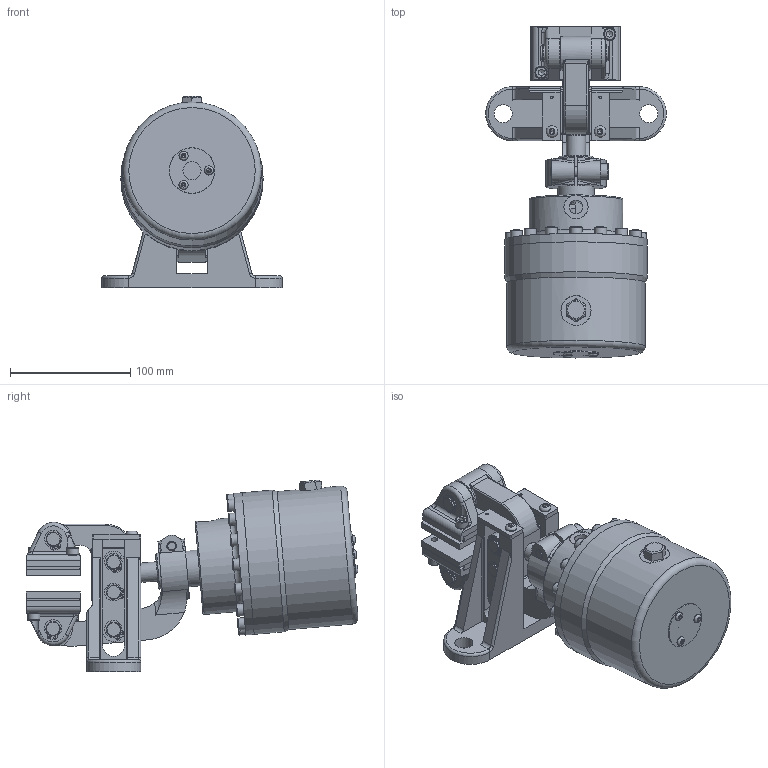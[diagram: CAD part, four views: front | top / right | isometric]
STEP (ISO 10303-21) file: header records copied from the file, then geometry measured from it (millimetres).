
FILE_DESCRIPTION(/* description */ ('','CAx-IF Rec.Pracs.---Representation and Presentation of Product Manufacturing Information (PMI)---4.0---2014-10-13'),/* implementation_level */ '2;1');
FILE_NAME(/* name */ 'X:\INVENTOR\DISEGNI\19_Pinze\STEP x Sito\OLEO-NEGATIVE\19_46_014_03 POD-N014_12,7.stp',/* time_stamp */ '2018-02-23T16:23:06+01:00',/* author */ ('stefano'),/* organization */ (''),/* preprocessor_version */ 'ST-DEVELOPER v17',/* originating_system */ 'Autodesk Inventor 2018',/* authorisation */ '');
FILE_SCHEMA (('AP242_MANAGED_MODEL_BASED_3D_ENGINEERING_MIM_LF { 1 0 10303 442 1 1 4 }'));
Length unit declared in the file: millimetre
Products named in the file (1): 19_46_014_03 POD-N014_12,7_Substitute_1
Bounding box: 150 x 275.68 x 159.17 mm (x, y, z)
Volume: 1267936.5 mm3; surface area: 256711 mm2
Topology: 5 solids, 5 shells, 988 faces, 2792 edges, 1879 vertices
Faces by surface type: plane 537, cylinder 284, cone 72, torus 67, bspline 27, sphere 1
Full cylindrical faces by diameter (mm): 1.7 x20, 2 x2, 3.242 x2, 4.917 x8, 5 x2, 7.6 x3, 8 x2, 8.5 x1, 9.5 x4, 10 x25, 10.5 x1, 11.445 x2, 11.5 x10, 12 x23, 13 x1, 13.5 x1, 15 x3, 16 x2, 19 x1, 19.5 x14, 22 x1, 22.6 x1, 24 x1, 25 x1, 30 x1, 38 x1, 55 x1, 78 x1, 96 x1, 115 x1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
Entity records: 37344 total; most frequent: CARTESIAN_POINT 10373, ORIENTED_EDGE 5520, DIRECTION 5485, EDGE_CURVE 2760, AXIS2_PLACEMENT_3D 2075, VERTEX_POINT 1879, LINE 1335, VECTOR 1335
